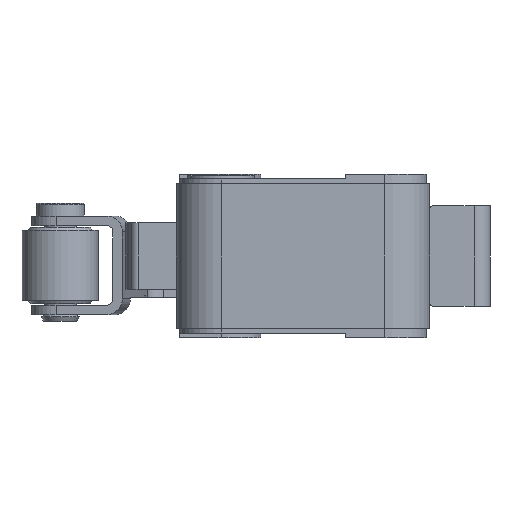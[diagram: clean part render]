
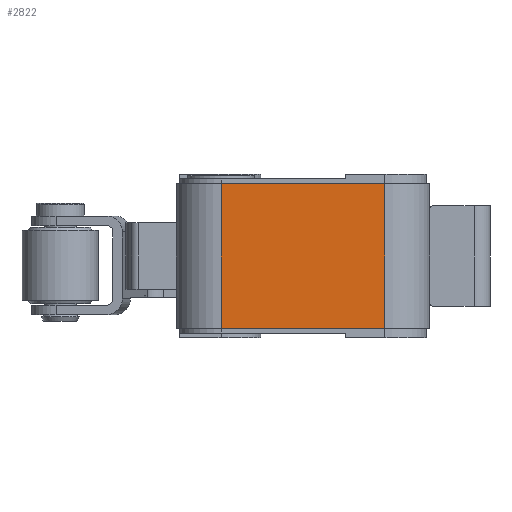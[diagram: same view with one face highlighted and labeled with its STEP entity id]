
A CAD part, left-side view. The second image highlights one B-rep face of the part: STEP entity #2822.
In plain terms, the highlighted planar face has unit normal (-1, 0, 0).
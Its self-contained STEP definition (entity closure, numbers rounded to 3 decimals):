
#1583=CARTESIAN_POINT('',(-13.9,5.15,4.55));
#1584=VERTEX_POINT('',#1583);
#1592=CARTESIAN_POINT('',(-13.9,-5.15,4.55));
#1593=VERTEX_POINT('',#1592);
#1594=CARTESIAN_POINT('',(-13.9,-5.15,4.55));
#1595=DIRECTION('',(0.0,1.0,0.0));
#1596=VECTOR('',#1595,10.3);
#1597=LINE('',#1594,#1596);
#1598=EDGE_CURVE('',#1593,#1584,#1597,.T.);
#2779=CARTESIAN_POINT('',(-13.9,5.15,-4.55));
#2780=VERTEX_POINT('',#2779);
#2781=CARTESIAN_POINT('',(-13.9,5.15,-4.55));
#2782=DIRECTION('',(0.0,0.0,1.0));
#2783=VECTOR('',#2782,9.1);
#2784=LINE('',#2781,#2783);
#2785=EDGE_CURVE('',#2780,#1584,#2784,.T.);
#2799=CARTESIAN_POINT('',(-13.9,-5.15,-4.55));
#2800=DIRECTION('',(-1.0,0.0,0.0));
#2801=DIRECTION('',(0.0,0.0,1.0));
#2802=AXIS2_PLACEMENT_3D('',#2799,#2800,#2801);
#2803=PLANE('',#2802);
#2804=ORIENTED_EDGE('',*,*,#1598,.T.);
#2805=ORIENTED_EDGE('',*,*,#2785,.F.);
#2806=CARTESIAN_POINT('',(-13.9,-5.15,-4.55));
#2807=VERTEX_POINT('',#2806);
#2808=CARTESIAN_POINT('',(-13.9,5.15,-4.55));
#2809=DIRECTION('',(0.0,-1.0,0.0));
#2810=VECTOR('',#2809,10.3);
#2811=LINE('',#2808,#2810);
#2812=EDGE_CURVE('',#2780,#2807,#2811,.T.);
#2813=ORIENTED_EDGE('',*,*,#2812,.T.);
#2814=CARTESIAN_POINT('',(-13.9,-5.15,-4.55));
#2815=DIRECTION('',(0.0,0.0,1.0));
#2816=VECTOR('',#2815,9.1);
#2817=LINE('',#2814,#2816);
#2818=EDGE_CURVE('',#2807,#1593,#2817,.T.);
#2819=ORIENTED_EDGE('',*,*,#2818,.T.);
#2820=EDGE_LOOP('',(#2804,#2805,#2813,#2819));
#2821=FACE_OUTER_BOUND('',#2820,.T.);
#2822=ADVANCED_FACE('',(#2821),#2803,.T.);
